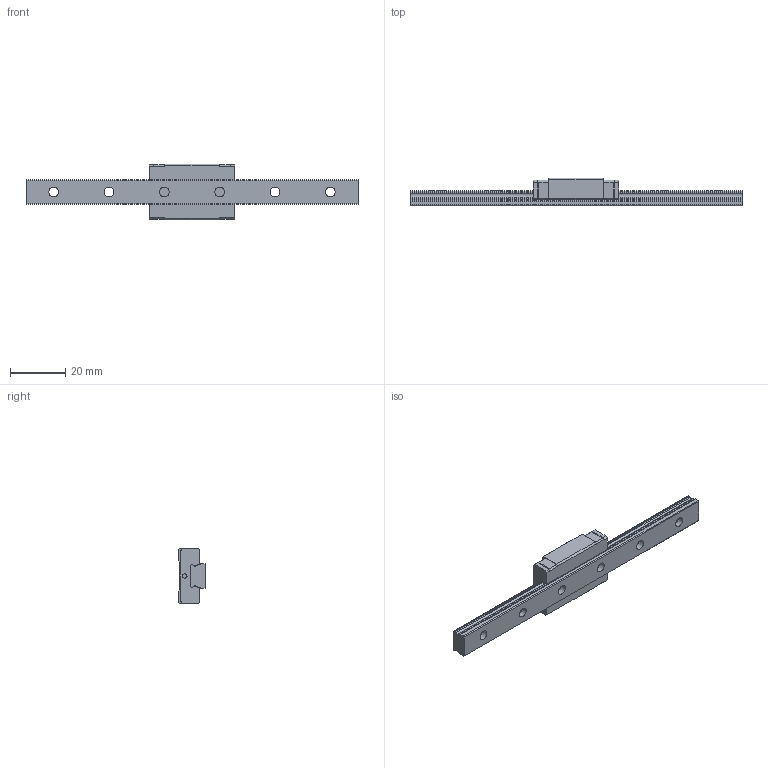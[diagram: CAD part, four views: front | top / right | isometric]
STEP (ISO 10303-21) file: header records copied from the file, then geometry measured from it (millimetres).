
FILE_DESCRIPTION(/* description */ ('STEP AP203'),/* implementation_level */ '2;1');
FILE_NAME(/* name */ 'RSX9MUU-120LM_G10_0_Without grease nipple_44-6_0_0_0_1',/* time_stamp */ '2024-05-21T10:25:22+02:00',/* author */ ('License CC BY-ND 4.0'),/* organization */ ('CADENAS'),/* preprocessor_version */ 'ST-DEVELOPER v19.3',/* originating_system */ 'PARTsolutions',/* authorisation */ ' ');
FILE_SCHEMA (('CONFIG_CONTROL_DESIGN'));
Length unit declared in the file: millimetre
Products named in the file (3): RSX9MUU-120LM_G10_0_Without grease nipple_44-6_0_0_0_1; RSX9M12010 Track; RSX9MUU1 Slider
Assembly tree (2 placements, depth 2):
  RSX9MUU-120LM_G10_0_Without grease nipple_44-6_0_0_0_1
    RSX9M12010 Track
    RSX9MUU1 Slider
Bounding box: 120 x 10 x 20 mm (x, y, z)
Volume: 8360.3 mm3; surface area: 6207 mm2
Topology: 2 solids, 2 shells, 130 faces, 350 edges, 232 vertices
Faces by surface type: plane 80, cylinder 42, cone 8
Full cylindrical faces by diameter (mm): 1.6 x2, 2.459 x4, 3.5 x6, 6 x6
Entity records: 3983 total; most frequent: CARTESIAN_POINT 677, DIRECTION 670, ORIENTED_EDGE 632, EDGE_CURVE 316, LINE 228, VECTOR 228, VERTEX_POINT 228, AXIS2_PLACEMENT_3D 221
